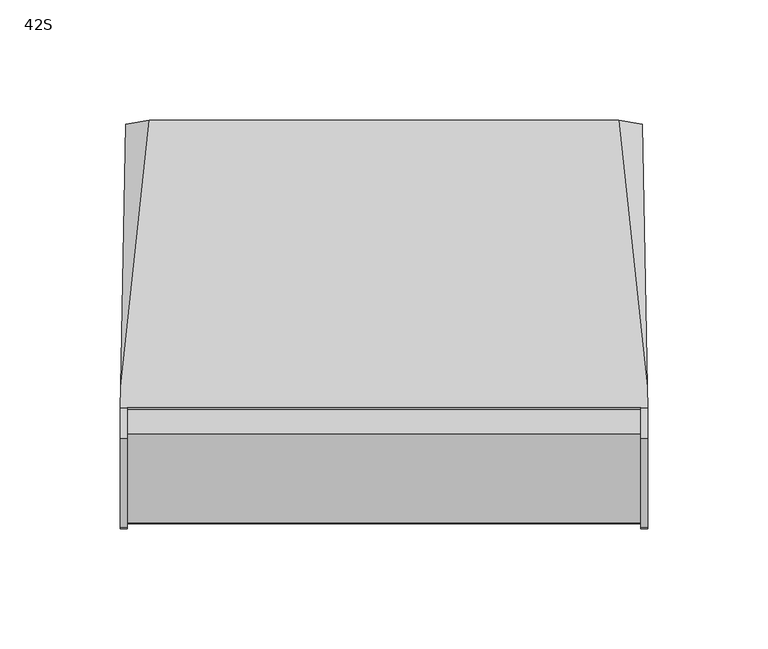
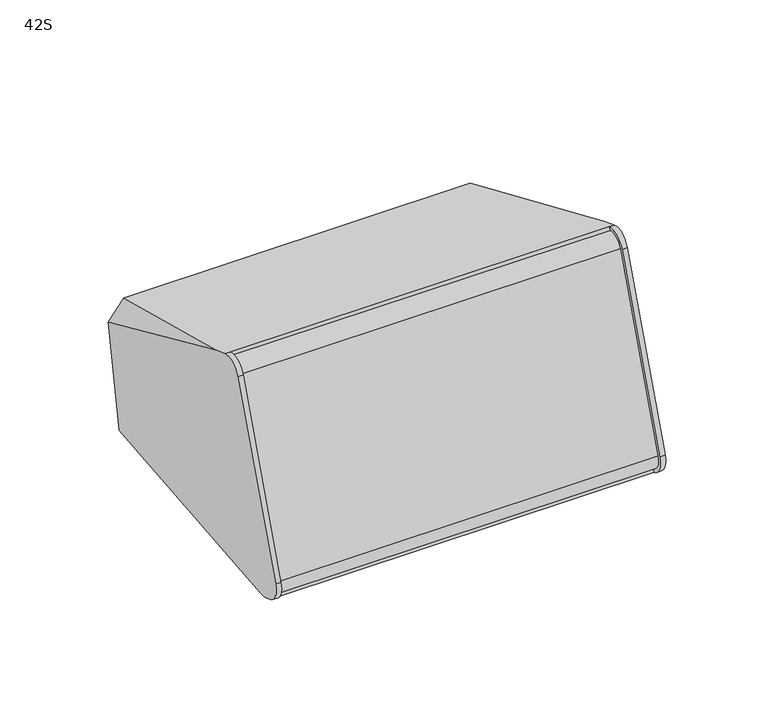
"""IFC4 building model written with IfcOpenShell, lengths in millimetres: proxy geometry, d&b xS-Series 42S Point Source : 42S."""

from ifc_helpers import new_model, si_unit, point, frame, frame_2d, origin, place, context, project, spatial, polyline, circle_curve, ellipse_curve, trimmed, segment, composite_curve, outline, extrude, source, transform, mapped, element, save
from ifc_brep_helpers import plane_surface, cylinder_surface, revolved_surface, advanced_brep


def proxy_42s_1332fbba(model_context):
    return source(origin(), model_context, "Body", "SolidModel", [
        advanced_brep(
        [(107.0, -40.1304238, 82.7136572), (-107.0, -40.1304238, 82.7136572), (-107.0, -40.7995779, 80.8751713), (107.0, -40.7995779, 80.8751713), (-107.0, -51.0085421, 76.1146532), (107.0, -51.0085421, 76.1146532), (-107.0, -87.9735419, -25.4458491), (107.0, -87.9735419, -25.4458491), (-107.0, -83.1921621, -35.6995512), (107.0, -83.1921621, -35.6995512), (-107.0, -83.8762023, -37.5789364), (107.0, -83.8762023, -37.5789364), (-109.8273531, -83.8762023, -37.5789364), (-109.7253263, -78.3036462, -39.607181), (109.7253263, -78.3036462, -39.607181), (109.8273531, -83.8762023, -37.5789364), (109.8279536, -40.1304238, 82.7136572), (109.6679034, -31.3887128, 79.5319346), (97.8946622, 79.7990071, 39.0629141), (-97.8946622, 79.7990071, 39.0629141), (-109.6679034, -31.3887128, 79.5319346), (-109.8279536, -40.1304238, 82.7136572), (-96.5142171, 65.9252495, -39.6190753), (96.5142171, 65.9252495, -39.6190753), (109.6679034, -74.7519113, -39.6074739), (-109.6679034, -74.7519113, -39.6074739), (107.602215, 78.0567362, 29.1820046), (-107.602215, 78.0567362, 29.1820046), (-107.4240938, 67.7036493, -29.5332686), (107.4240938, 67.7036493, -29.5332686), (109.9986507, -52.8470279, 76.7838073), (109.9993995, -89.8529271, -24.7618088), (-109.9993995, -89.8529271, -24.7618088), (-109.9993995, -52.8879273, 76.7986935), (107.0, -89.8529271, -24.7618088), (107.0, -52.8879273, 76.7986935), (95.447753, 76.4794532, 20.2367887), (82.947753, 78.6500555, 32.5468856), (67.052247, 78.6500555, 32.5468856), (54.552247, 76.4794532, 20.2367887), (54.552247, 69.2582078, -20.7169296), (67.052247, 67.0876055, -33.0270265), (82.947753, 67.0876055, -33.0270265), (95.447753, 69.2582078, -20.7169296), (-52.1, 76.4794532, 20.2367887), (-64.6, 78.6500555, 32.5468856), (-82.4, 78.6500555, 32.5468856), (-94.9, 76.4794532, 20.2367887), (-94.9, 69.2582078, -20.7169296), (-82.4, 67.0876055, -33.0270265), (-64.6, 67.0876055, -33.0270265), (-52.1, 69.2582078, -20.7169296), (95.447753, 71.5554145, 21.1050296), (95.447753, 64.334169, -19.8486887), (82.947753, 62.1635668, -32.1587856), (67.052247, 62.1635668, -32.1587856), (54.552247, 64.334169, -19.8486887), (54.552247, 71.5554145, 21.1050296), (67.052247, 73.7260167, 33.4151265), (82.947753, 73.7260167, 33.4151265), (-52.1, 71.5554145, 21.1050296), (-52.1, 64.334169, -19.8486887), (-64.6, 62.1635668, -32.1587856), (-82.4, 62.1635668, -32.1587856), (-94.9, 64.334169, -19.8486887), (-94.9, 71.5554145, 21.1050296), (-82.4, 73.7260167, 33.4151265), (-64.6, 73.7260167, 33.4151265), (-107.0, -52.8470279, 76.7838073), (-107.0, -89.8529271, -24.7618088)],
        [
            (0, 1),
            (1, 2),
            (2, 3),
            (3, 0),
            (2, 4, circle_curve(frame((-107.0, -43.5238009, 73.3904302), z_axis=(1.0, 0.0, 0.0), x_axis=(0.0, 0.3420201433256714, 0.9396926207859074)), 7.9650952)),
            (4, 5),
            (5, 3, circle_curve(frame((107.0, -43.5238009, 73.3904302), z_axis=(-1.0, 0.0, 0.0), x_axis=(0.0, 0.3420201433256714, 0.9396926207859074)), 7.9650952)),
            (4, 6),
            (6, 7),
            (7, 5),
            (6, 8, circle_curve(frame((-107.0, -80.4560009, -28.1820102), z_axis=(1.0, 0.0, 0.0), x_axis=(0.0, 0.3420201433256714, 0.9396926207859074)), 8.0)),
            (8, 9),
            (9, 7, circle_curve(frame((107.0, -80.4560009, -28.1820102), z_axis=(-1.0, 0.0, 0.0), x_axis=(0.0, 0.3420201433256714, 0.9396926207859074)), 8.0)),
            (8, 10),
            (10, 11),
            (11, 9),
            (10, 12),
            (12, 13),
            (13, 14),
            (14, 15),
            (15, 11),
            (0, 16),
            (16, 17),
            (17, 18),
            (18, 19),
            (19, 20),
            (20, 21),
            (21, 1),
            (22, 23),
            (23, 24),
            (24, 14),
            (13, 25),
            (25, 22),
            (26, 18),
            (17, 26),
            (19, 27),
            (27, 20),
            (28, 22),
            (25, 28),
            (23, 29),
            (29, 24),
            (29, 26),
            (16, 30, ellipse_curve(frame((109.8279536, -43.5238009, 73.3904302), z_axis=(0.9998520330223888, 0.016164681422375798, -0.0058834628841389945), x_axis=(0.017202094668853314, -0.9395535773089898, 0.3419695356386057)), 9.9230392, 9.921571)),
            (30, 31),
            (31, 15, ellipse_curve(frame((109.8273531, -80.4560009, -28.1820102), z_axis=(0.9998520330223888, 0.016164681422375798, -0.0058834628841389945), x_axis=(0.017202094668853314, -0.9395535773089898, 0.3419695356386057)), 10.0014799, 10.0)),
            (12, 32, ellipse_curve(frame((-109.8273531, -80.4560009, -28.1820102), z_axis=(-0.9998520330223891, 0.01616468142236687, -0.005883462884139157), x_axis=(0.017202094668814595, 0.9395535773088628, -0.34196953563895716)), 10.0014799, 10.0)),
            (32, 33),
            (33, 21, ellipse_curve(frame((-109.8279536, -43.5238009, 73.3904302), z_axis=(-0.9998520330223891, 0.01616468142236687, -0.005883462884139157), x_axis=(0.017202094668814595, 0.9395535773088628, -0.34196953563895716)), 9.9230392, 9.921571)),
            (27, 28),
            (11, 34, circle_curve(frame((107.0, -80.4560009, -28.1820102), z_axis=(-1.0, 0.0, 0.0), x_axis=(0.0, 0.3420201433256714, 0.9396926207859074)), 10.0)),
            (34, 35),
            (35, 0, circle_curve(frame((107.0, -43.5238009, 73.3904302), z_axis=(-1.0, 0.0, 0.0), x_axis=(0.0, 0.3420201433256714, 0.9396926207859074)), 9.921571)),
            (35, 30),
            (34, 31),
            (36, 37, circle_curve(frame((82.947753, 76.4794532, 20.2367887), z_axis=(0.0, -0.9848077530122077, 0.1736481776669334), x_axis=(0.0, -0.1736481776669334, -0.9848077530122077)), 12.5)),
            (37, 38),
            (38, 39, circle_curve(frame((67.052247, 76.4794532, 20.2367887), z_axis=(0.0, -0.9848077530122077, 0.1736481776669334), x_axis=(0.0, -0.1736481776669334, -0.9848077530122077)), 12.5)),
            (39, 40),
            (40, 41, circle_curve(frame((67.052247, 69.2582078, -20.7169296), z_axis=(0.0, -0.9848077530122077, 0.1736481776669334), x_axis=(0.0, -0.1736481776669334, -0.9848077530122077)), 12.5)),
            (41, 42),
            (42, 43, circle_curve(frame((82.947753, 69.2582078, -20.7169296), z_axis=(0.0, -0.9848077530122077, 0.1736481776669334), x_axis=(0.0, -0.1736481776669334, -0.9848077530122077)), 12.5)),
            (43, 36),
            (44, 45, circle_curve(frame((-64.6, 76.4794532, 20.2367887), z_axis=(0.0, -0.9848077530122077, 0.1736481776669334), x_axis=(0.0, -0.1736481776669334, -0.9848077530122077)), 12.5)),
            (45, 46),
            (46, 47, circle_curve(frame((-82.4, 76.4794532, 20.2367887), z_axis=(0.0, -0.9848077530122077, 0.1736481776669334), x_axis=(0.0, -0.1736481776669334, -0.9848077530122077)), 12.5)),
            (47, 48),
            (48, 49, circle_curve(frame((-82.4, 69.2582078, -20.7169296), z_axis=(0.0, -0.9848077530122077, 0.1736481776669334), x_axis=(0.0, -0.1736481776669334, -0.9848077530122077)), 12.5)),
            (49, 50),
            (50, 51, circle_curve(frame((-64.6, 69.2582078, -20.7169296), z_axis=(0.0, -0.9848077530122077, 0.1736481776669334), x_axis=(0.0, -0.1736481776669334, -0.9848077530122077)), 12.5)),
            (51, 44),
            (52, 53),
            (53, 54, circle_curve(frame((82.947753, 64.334169, -19.8486887), z_axis=(0.0, 0.9848077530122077, -0.1736481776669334), x_axis=(0.0, -0.1736481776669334, -0.9848077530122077)), 12.5)),
            (54, 55),
            (55, 56, circle_curve(frame((67.052247, 64.334169, -19.8486887), z_axis=(0.0, 0.9848077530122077, -0.1736481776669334), x_axis=(0.0, -0.1736481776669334, -0.9848077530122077)), 12.5)),
            (56, 57),
            (57, 58, circle_curve(frame((67.052247, 71.5554145, 21.1050296), z_axis=(0.0, 0.9848077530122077, -0.1736481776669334), x_axis=(0.0, -0.1736481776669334, -0.9848077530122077)), 12.5)),
            (58, 59),
            (59, 52, circle_curve(frame((82.947753, 71.5554145, 21.1050296), z_axis=(0.0, 0.9848077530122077, -0.1736481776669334), x_axis=(0.0, -0.1736481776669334, -0.9848077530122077)), 12.5)),
            (60, 61),
            (61, 62, circle_curve(frame((-64.6, 64.334169, -19.8486887), z_axis=(0.0, 0.9848077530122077, -0.1736481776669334), x_axis=(0.0, -0.1736481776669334, -0.9848077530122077)), 12.5)),
            (62, 63),
            (63, 64, circle_curve(frame((-82.4, 64.334169, -19.8486887), z_axis=(0.0, 0.9848077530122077, -0.1736481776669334), x_axis=(0.0, -0.1736481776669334, -0.9848077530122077)), 12.5)),
            (64, 65),
            (65, 66, circle_curve(frame((-82.4, 71.5554145, 21.1050296), z_axis=(0.0, 0.9848077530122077, -0.1736481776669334), x_axis=(0.0, -0.1736481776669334, -0.9848077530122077)), 12.5)),
            (66, 67),
            (67, 60, circle_curve(frame((-64.6, 71.5554145, 21.1050296), z_axis=(0.0, 0.9848077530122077, -0.1736481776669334), x_axis=(0.0, -0.1736481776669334, -0.9848077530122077)), 12.5)),
            (1, 68, circle_curve(frame((-107.0, -43.5238009, 73.3904302), z_axis=(1.0, 0.0, 0.0), x_axis=(0.0, 0.3420201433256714, 0.9396926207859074)), 9.921571)),
            (68, 69),
            (69, 10, circle_curve(frame((-107.0, -80.4560009, -28.1820102), z_axis=(1.0, 0.0, 0.0), x_axis=(0.0, 0.3420201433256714, 0.9396926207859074)), 10.0)),
            (33, 68),
            (32, 69),
            (59, 37),
            (36, 52),
            (58, 38),
            (57, 39),
            (56, 40),
            (55, 41),
            (54, 42),
            (53, 43),
            (67, 45),
            (44, 60),
            (66, 46),
            (65, 47),
            (64, 48),
            (63, 49),
            (62, 50),
            (61, 51),
        ],
        [
            plane_surface(frame((107.0, -40.1304238, 82.7136572), z_axis=(0.0, -0.9396926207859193, 0.3420201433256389), x_axis=(-1.0, 0.0, 0.0))),
            cylinder_surface(frame((-107.0, -43.5238009, 73.3904302), z_axis=(1.0, 0.0, 0.0), x_axis=(0.0, 0.3420201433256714, 0.9396926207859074)), 7.9650952),
            plane_surface(frame((107.0, -51.0085421, 76.1146532), z_axis=(0.0, -0.9396926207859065, 0.34202014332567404), x_axis=(-1.0, 0.0, 0.0))),
            cylinder_surface(frame((-107.0, -80.4560009, -28.1820102), z_axis=(1.0, 0.0, 0.0), x_axis=(0.0, 0.3420201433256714, 0.9396926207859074)), 8.0),
            plane_surface(frame((107.0, -83.1921621, -35.6995512), z_axis=(0.0, -0.9396926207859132, 0.3420201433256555), x_axis=(-1.0, 0.0, 0.0))),
            plane_surface(frame((107.0, -83.8762023, -37.5789364), z_axis=(0.0, -0.3420201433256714, -0.9396926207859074), x_axis=(-1.0, 0.0, 0.0))),
            plane_surface(frame((107.0, -34.5250679, 80.6734745), z_axis=(0.0, 0.3420201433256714, 0.9396926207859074), x_axis=(-1.0, 0.0, 0.0))),
            plane_surface(frame((0.0, 66.4573306, -39.6191191), z_axis=(0.0, -8.246800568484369e-05, -0.9999999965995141), x_axis=(1.0, 0.0, 0.0))),
            plane_surface(frame((103.232233, 90.9912157, 27.7871762), z_axis=(0.705363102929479, 0.3071997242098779, 0.6388201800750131), x_axis=(-0.7071067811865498, 0.24184476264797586, 0.6644630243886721))),
            plane_surface(frame((-103.232233, 90.9912157, 27.7871762), z_axis=(-0.705363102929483, 0.30719972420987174, 0.6388201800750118), x_axis=(-0.7071067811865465, -0.24184476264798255, -0.6644630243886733))),
            plane_surface(frame((-103.232233, 68.7720433, -33.2594985), z_axis=(-0.6719558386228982, 0.06276879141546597, -0.7379264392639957), x_axis=(0.7071067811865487, -0.24184476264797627, -0.6644630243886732))),
            plane_surface(frame((103.232233, 68.7720433, -33.2594985), z_axis=(0.6719558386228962, 0.06276879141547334, -0.737926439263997), x_axis=(0.7071067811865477, 0.24184476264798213, 0.6644630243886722))),
            plane_surface(frame((110.3665166, -125.6372625, -60.6895534), z_axis=(0.9998520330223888, 0.016164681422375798, -0.0058834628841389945), x_axis=(0.0, 0.3420201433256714, 0.9396926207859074))),
            plane_surface(frame((-107.2474477, 44.7217815, -122.6951745), z_axis=(-0.9998520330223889, 0.016164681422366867, -0.005883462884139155), x_axis=(0.0, 0.3420201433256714, 0.9396926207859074))),
            plane_surface(frame((107.0, -40.1304238, 82.7136572), z_axis=(-1.0, 0.0, 0.0), x_axis=(0.0, 0.9396926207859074, -0.3420201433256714))),
            cylinder_surface(frame((107.0, -43.5238009, 73.3904302), z_axis=(1.0, 0.0, 0.0), x_axis=(0.0, 0.3420201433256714, 0.9396926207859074)), 9.921571),
            plane_surface(frame((112.6426388, -52.8879273, 76.7986935), z_axis=(0.0, -0.9396926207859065, 0.34202014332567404), x_axis=(-1.0, 0.0, 0.0))),
            cylinder_surface(frame((107.0, -80.4560009, -28.1820102), z_axis=(1.0, 0.0, 0.0), x_axis=(0.0, 0.3420201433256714, 0.9396926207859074)), 10.0),
            plane_surface(frame((250.0, 82.8421534, 56.3214544), z_axis=(0.0, 0.9848077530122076, -0.173648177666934), x_axis=(-1.0, 0.0, 0.0))),
            plane_surface(frame((82.947753, 69.3848123, 8.7949326), z_axis=(0.0, 0.9848077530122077, -0.1736481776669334), x_axis=(1.0, 0.0, 0.0))),
            plane_surface(frame((-107.0, -40.1304238, 82.7136572), z_axis=(1.0, 0.0, 0.0), x_axis=(0.0, -0.9396926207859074, 0.3420201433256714))),
            cylinder_surface(frame((-113.0, -43.5238009, 73.3904302), z_axis=(1.0, 0.0, 0.0), x_axis=(0.0, 0.3420201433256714, 0.9396926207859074)), 9.921571),
            plane_surface(frame((-107.0, -52.8879273, 76.7986935), z_axis=(0.0, -0.9396926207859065, 0.34202014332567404), x_axis=(-1.0, 0.0, 0.0))),
            cylinder_surface(frame((-113.0, -80.4560009, -28.1820102), z_axis=(1.0, 0.0, 0.0), x_axis=(0.0, 0.3420201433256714, 0.9396926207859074)), 10.0),
            revolved_surface(polyline([(82.947753, 69.38481225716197, 8.794932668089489), (82.947753, 74.30885105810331, 7.926691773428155)]), (82.947753, 76.4794532, 20.2367887), (0.0, -0.9848077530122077, 0.1736481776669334)),
            plane_surface(frame((82.947753, 73.7260167, 33.4151265), z_axis=(0.0, -0.17364817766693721, -0.9848077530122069), x_axis=(0.0, 0.9848077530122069, -0.17364817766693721))),
            revolved_surface(polyline([(67.052247, 69.38481225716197, 8.794932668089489), (67.052247, 74.30885105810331, 7.926691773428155)]), (67.052247, 76.4794532, 20.2367887), (0.0, -0.9848077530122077, 0.1736481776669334)),
            plane_surface(frame((54.552247, 71.5554145, 21.1050296), z_axis=(1.0, 0.0, 0.0), x_axis=(0.0, 0.9848077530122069, -0.17364817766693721))),
            revolved_surface(polyline([(67.052247, 62.16356677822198, -32.15878561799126), (67.052247, 67.08760557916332, -33.0270265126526)]), (67.052247, 69.2582078, -20.7169296), (0.0, -0.9848077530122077, 0.1736481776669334)),
            plane_surface(frame((67.052247, 62.1635668, -32.1587856), z_axis=(0.0, 0.17364817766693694, 0.984807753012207), x_axis=(0.0, 0.984807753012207, -0.17364817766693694))),
            revolved_surface(polyline([(82.947753, 62.16356677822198, -32.15878561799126), (82.947753, 67.08760557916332, -33.0270265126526)]), (82.947753, 69.2582078, -20.7169296), (0.0, -0.9848077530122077, 0.1736481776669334)),
            plane_surface(frame((95.447753, 64.334169, -19.8486887), z_axis=(-1.0, 0.0, 0.0), x_axis=(0.0, 0.9848077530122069, -0.17364817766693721))),
            revolved_surface(polyline([(-64.6, 69.38481225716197, 8.794932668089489), (-64.6, 74.30885105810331, 7.926691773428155)]), (-64.6, 76.4794532, 20.2367887), (0.0, -0.9848077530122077, 0.1736481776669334)),
            plane_surface(frame((-64.6, 73.7260167, 33.4151265), z_axis=(0.0, -0.17364817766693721, -0.9848077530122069), x_axis=(0.0, 0.9848077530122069, -0.17364817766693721))),
            revolved_surface(polyline([(-82.4, 69.38481225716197, 8.794932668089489), (-82.4, 74.30885105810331, 7.926691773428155)]), (-82.4, 76.4794532, 20.2367887), (0.0, -0.9848077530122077, 0.1736481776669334)),
            plane_surface(frame((-94.9, 71.5554145, 21.1050296), z_axis=(1.0, 0.0, 0.0), x_axis=(0.0, 0.9848077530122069, -0.17364817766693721))),
            revolved_surface(polyline([(-82.4, 62.16356677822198, -32.15878561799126), (-82.4, 67.08760557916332, -33.0270265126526)]), (-82.4, 69.2582078, -20.7169296), (0.0, -0.9848077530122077, 0.1736481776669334)),
            plane_surface(frame((-82.4, 62.1635668, -32.1587856), z_axis=(0.0, 0.17364817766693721, 0.9848077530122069), x_axis=(0.0, 0.9848077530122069, -0.17364817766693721))),
            revolved_surface(polyline([(-64.6, 62.16356677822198, -32.15878561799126), (-64.6, 67.08760557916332, -33.0270265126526)]), (-64.6, 69.2582078, -20.7169296), (0.0, -0.9848077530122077, 0.1736481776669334)),
            plane_surface(frame((-52.1, 64.334169, -19.8486887), z_axis=(-1.0, 0.0, 0.0), x_axis=(0.0, 0.9848077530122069, -0.17364817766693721))),
        ],
        [
            (0, [[1, 2, 3, 4]]),
            (1, [[-3, 5, 6, 7]]),
            (2, [[-6, 8, 9, 10]]),
            (3, [[-9, 11, 12, 13]]),
            (4, [[-12, 14, 15, 16]]),
            (5, [[-15, 17, 18, 19, 20, 21]]),
            (6, [[-1, 22, 23, 24, 25, 26, 27, 28]]),
            (7, [[29, 30, 31, -19, 32, 33]]),
            (8, [[34, -24, 35]]),
            (9, [[-26, 36, 37]]),
            (10, [[38, -33, 39]]),
            (11, [[-30, 40, 41]]),
            (12, [[-20, -31, -41, 42, -35, -23, 43, 44, 45]]),
            (13, [[-18, 46, 47, 48, -27, -37, 49, -39, -32]]),
            (14, [[50, 51, 52, -4, -7, -10, -13, -16]]),
            (15, [[-52, 53, -43, -22]]),
            (16, [[-51, 54, -44, -53]]),
            (17, [[-50, -21, -45, -54]]),
            (18, [[-25, -34, -42, -40, -29, -38, -49, -36], [55, 56, 57, 58, 59, 60, 61, 62], [63, 64, 65, 66, 67, 68, 69, 70]]),
            (19, [[71, 72, 73, 74, 75, 76, 77, 78]]),
            (19, [[79, 80, 81, 82, 83, 84, 85, 86]]),
            (20, [[87, 88, 89, -14, -11, -8, -5, -2]]),
            (21, [[-87, -28, -48, 90]]),
            (22, [[-88, -90, -47, 91]]),
            (23, [[-89, -91, -46, -17]]),
            (24, [[-78, 92, -55, 93]]),
            (25, [[-77, 94, -56, -92]]),
            (26, [[-76, 95, -57, -94]]),
            (27, [[-75, 96, -58, -95]]),
            (28, [[-74, 97, -59, -96]]),
            (29, [[-73, 98, -60, -97]]),
            (30, [[-72, 99, -61, -98]]),
            (31, [[-71, -93, -62, -99]]),
            (32, [[-86, 100, -63, 101]]),
            (33, [[-85, 102, -64, -100]]),
            (34, [[-84, 103, -65, -102]]),
            (35, [[-83, 104, -66, -103]]),
            (36, [[-82, 105, -67, -104]]),
            (37, [[-81, 106, -68, -105]]),
            (38, [[-80, 107, -69, -106]]),
            (39, [[-79, -101, -70, -107]]),
        ],
    ),
        extrude(outline(composite_curve([segment(trimmed(circle_curve(frame_2d((0.0, -12.0)), 12.0), [point((0.0, -24.0))], [point((0.0, 0.0))], False, "CARTESIAN"), True, "CONTINUOUS"), segment(trimmed(circle_curve(frame_2d((0.0, -12.0)), 12.0), [point((0.0, 0.0))], [point((0.0, -24.0))], False, "CARTESIAN"), True, "CONTINUOUS")], self_intersect=False)), frame((-74.8471384, 77.5502112, 26.3093585), z_axis=(0.0, -0.9848077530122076, 0.173648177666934), x_axis=(1.0, 0.0, 0.0)), (0.0, 0.0, 1.0), 5.0),
        extrude(outline(composite_curve([segment(trimmed(circle_curve(frame_2d((0.0, -42.0)), 12.0), [point((0.0, -53.9999999))], [point((0.0, -30.0))], False, "CARTESIAN"), True, "CONTINUOUS"), segment(trimmed(circle_curve(frame_2d((0.0, -42.0)), 12.0), [point((0.0, -30.0))], [point((0.0, -53.9999999))], False, "CARTESIAN"), True, "CONTINUOUS")], self_intersect=False)), frame((-74.8471384, 77.5502112, 26.3093585), z_axis=(0.0, -0.9848077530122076, 0.173648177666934), x_axis=(1.0, 0.0, 0.0)), (0.0, 0.0, 1.0), 5.0),
    ])


if __name__ == "__main__":
    model = new_model("IFC4")
    model_context = context("Model", 3, world=origin())
    ifc_project = project(units=[si_unit("LENGTHUNIT", "METRE", prefix="MILLI")], contexts=[model_context])
    site = spatial("IfcSite", under=ifc_project)
    building = spatial("IfcBuilding", under=site)
    placement = place(None, origin())
    proxy_42s_shape = proxy_42s_1332fbba(model_context)
    element("IfcBuildingElementProxy", 1, Name="d&b xS-Series 42S Point Source : 42S", ObjectType="d&b xS-Series 42S Point Source : 42S", at=placement, inside=building, context=model_context, shape_type="MappedRepresentation", body=[
        mapped(proxy_42s_shape, transform((0.0, 0.0, 0.0), x_axis=(1.0, 0.0, 0.0), y_axis=(0.0, 1.0, 0.0), z_axis=(0.0, 0.0, 1.0))),
    ])
    save(model, "model.ifc")
